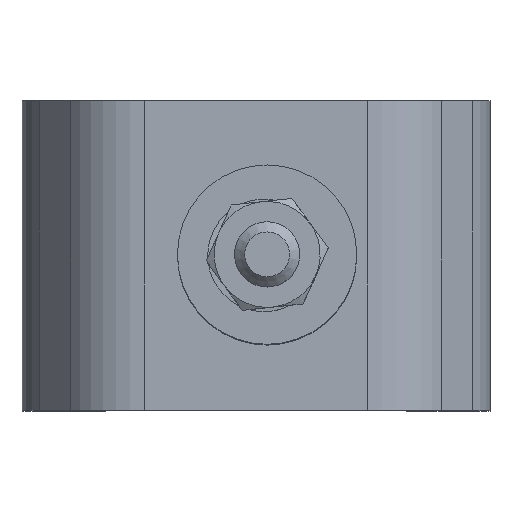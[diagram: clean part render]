
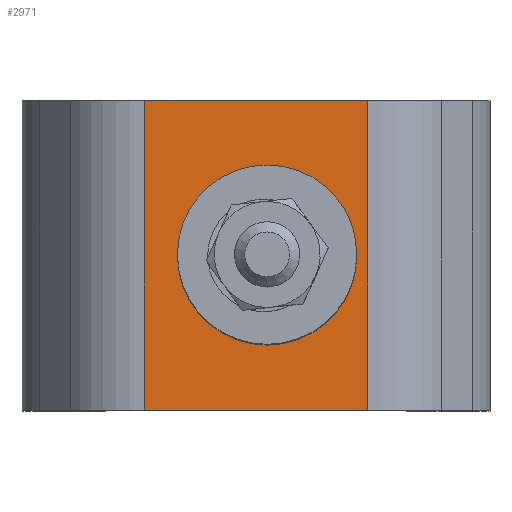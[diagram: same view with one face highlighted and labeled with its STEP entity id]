
A CAD part, top view. The second image highlights one B-rep face of the part: STEP entity #2971.
In plain terms, the highlighted planar face has unit normal (0, 0, 1).
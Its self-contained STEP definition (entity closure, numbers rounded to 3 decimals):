
#185=CIRCLE('',#3112,11.);
#298=ORIENTED_EDGE('',*,*,#916,.F.);
#299=ORIENTED_EDGE('',*,*,#917,.F.);
#300=ORIENTED_EDGE('',*,*,#918,.F.);
#301=ORIENTED_EDGE('',*,*,#919,.T.);
#302=ORIENTED_EDGE('',*,*,#920,.T.);
#916=EDGE_CURVE('',#1225,#1225,#185,.T.);
#917=EDGE_CURVE('',#1226,#1227,#1437,.T.);
#918=EDGE_CURVE('',#1228,#1226,#1438,.T.);
#919=EDGE_CURVE('',#1228,#1229,#1439,.T.);
#920=EDGE_CURVE('',#1229,#1227,#1440,.T.);
#1225=VERTEX_POINT('',#3882);
#1226=VERTEX_POINT('',#3884);
#1227=VERTEX_POINT('',#3885);
#1228=VERTEX_POINT('',#3887);
#1229=VERTEX_POINT('',#3889);
#1437=LINE('',#3883,#1573);
#1438=LINE('',#3886,#1574);
#1439=LINE('',#3888,#1575);
#1440=LINE('',#3890,#1576);
#1573=VECTOR('',#3342,1000.);
#1574=VECTOR('',#3343,1000.);
#1575=VECTOR('',#3344,1000.);
#1576=VECTOR('',#3345,1000.);
#1698=EDGE_LOOP('',(#298));
#1699=EDGE_LOOP('',(#299,#300,#301,#302));
#1853=FACE_BOUND('',#1698,.T.);
#1854=FACE_BOUND('',#1699,.T.);
#2008=PLANE('',#3111);
#2971=ADVANCED_FACE('',(#1853,#1854),#2008,.T.);
#3111=AXIS2_PLACEMENT_3D('',#3880,#3338,#3339);
#3112=AXIS2_PLACEMENT_3D('',#3881,#3340,#3341);
#3338=DIRECTION('',(0.,0.,1.));
#3339=DIRECTION('',(1.,0.,0.));
#3340=DIRECTION('',(0.,0.,1.));
#3341=DIRECTION('',(1.,0.,0.));
#3342=DIRECTION('',(1.,0.,0.));
#3343=DIRECTION('',(0.,1.,0.));
#3344=DIRECTION('',(1.,0.,0.));
#3345=DIRECTION('',(0.,1.,0.));
#3880=CARTESIAN_POINT('',(-15.051,-19.,1.208));
#3881=CARTESIAN_POINT('',(0.,0.,1.208));
#3882=CARTESIAN_POINT('',(11.,0.,1.208));
#3883=CARTESIAN_POINT('',(-15.051,19.,1.208));
#3884=CARTESIAN_POINT('',(-15.051,19.,1.208));
#3885=CARTESIAN_POINT('',(12.321,19.,1.208));
#3886=CARTESIAN_POINT('',(-15.051,-19.,1.208));
#3887=CARTESIAN_POINT('',(-15.051,-19.,1.208));
#3888=CARTESIAN_POINT('',(-15.051,-19.,1.208));
#3889=CARTESIAN_POINT('',(12.321,-19.,1.208));
#3890=CARTESIAN_POINT('',(12.321,-19.,1.208));
